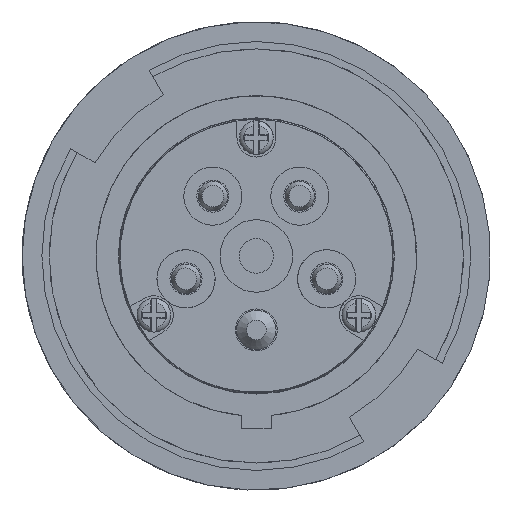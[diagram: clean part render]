
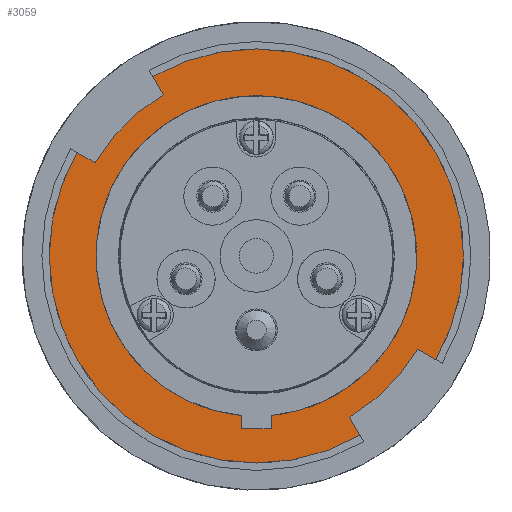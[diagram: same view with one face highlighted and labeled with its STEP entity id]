
A CAD part, front view. The second image highlights one B-rep face of the part: STEP entity #3059.
In plain terms, the highlighted planar face has unit normal (0, -1, 0).
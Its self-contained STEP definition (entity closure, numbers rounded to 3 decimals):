
#2996=CARTESIAN_POINT('',(-32.5,45.0,0.));
#2997=VERTEX_POINT('',#2996);
#2998=CARTESIAN_POINT('',(0.0,45.0,0.0));
#2999=DIRECTION('',(0.0,1.0,0.0));
#3000=DIRECTION('',(1.0,0.0,0.0));
#3001=AXIS2_PLACEMENT_3D('',#2998,#2999,#3000);
#3002=CIRCLE('',#3001,32.5);
#3003=EDGE_CURVE('',#2997,#2997,#3002,.T.);
#3024=CARTESIAN_POINT('',(-42.0,45.0,0.));
#3025=VERTEX_POINT('',#3024);
#3026=CARTESIAN_POINT('',(0.0,45.0,0.0));
#3027=DIRECTION('',(0.0,-1.0,0.0));
#3028=DIRECTION('',(1.0,0.0,0.0));
#3029=AXIS2_PLACEMENT_3D('',#3026,#3027,#3028);
#3030=CIRCLE('',#3029,42.0);
#3031=EDGE_CURVE('',#3025,#3025,#3030,.T.);
#3048=CARTESIAN_POINT('',(0.0,45.0,0.0));
#3049=DIRECTION('',(0.0,-1.0,0.0));
#3050=DIRECTION('',(0.0,0.0,-1.0));
#3051=AXIS2_PLACEMENT_3D('',#3048,#3049,#3050);
#3052=PLANE('',#3051);
#3053=ORIENTED_EDGE('',*,*,#3031,.T.);
#3054=EDGE_LOOP('',(#3053));
#3055=FACE_OUTER_BOUND('',#3054,.T.);
#3056=ORIENTED_EDGE('',*,*,#3003,.T.);
#3057=EDGE_LOOP('',(#3056));
#3058=FACE_BOUND('',#3057,.T.);
#3059=ADVANCED_FACE('',(#3055,#3058),#3052,.T.);
